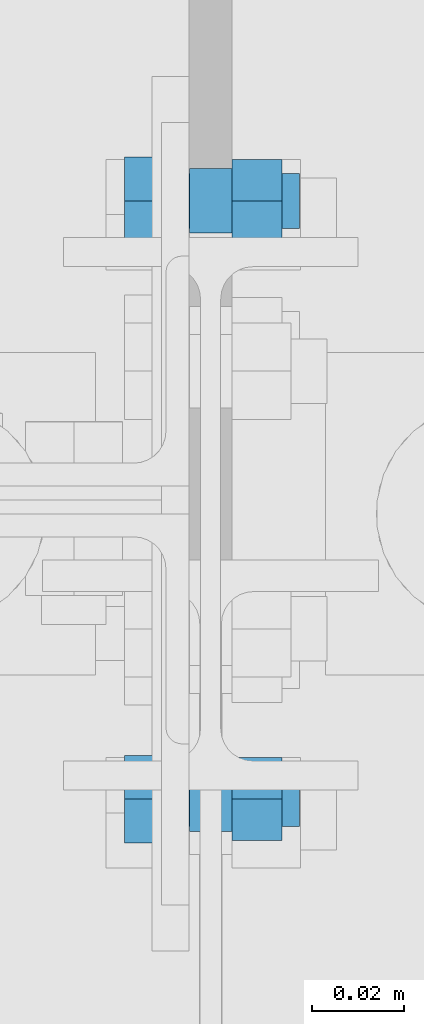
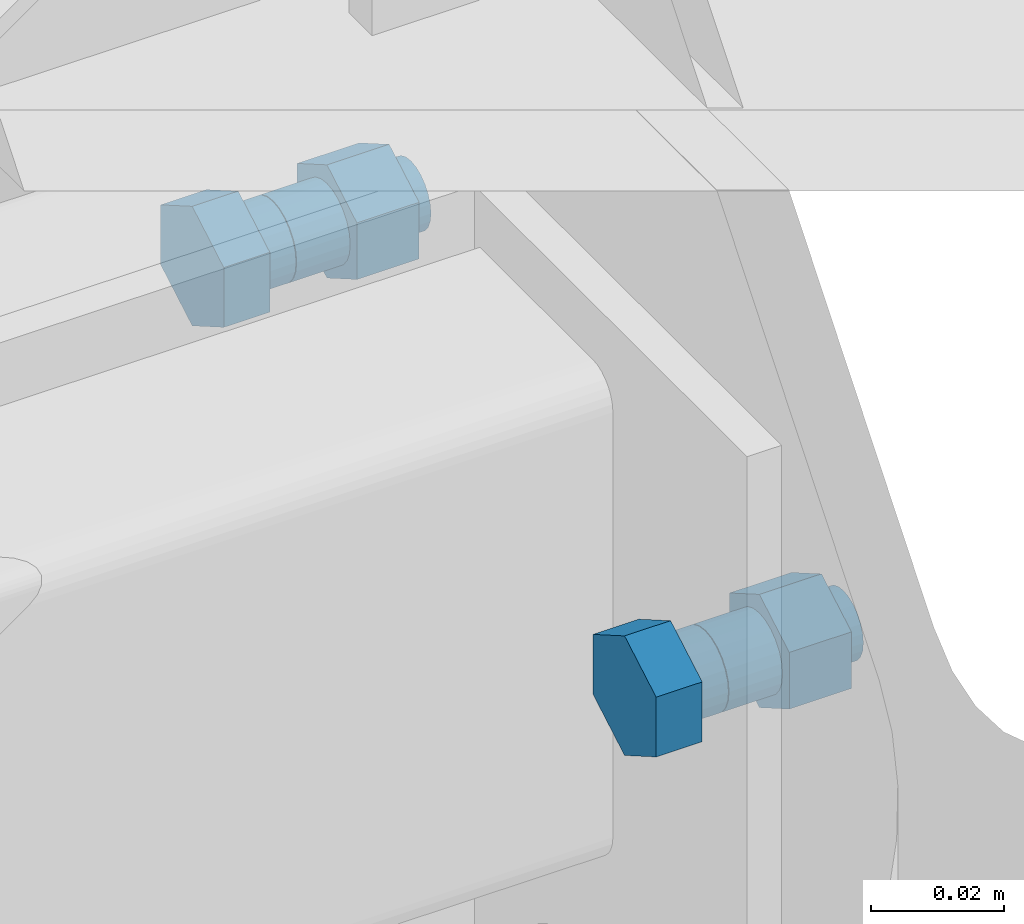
# One storey, part 11 of 21: 1 mechanical fastener.
"""IFC2X3 building model written with IfcOpenShell, lengths in millimetres."""

from ifc_helpers import new_model, si_unit, frame, origin_with_axes, place, context, project, spatial, faceted_brep, element, save


model = new_model("IFC2X3")

# Units and contexts
model_context_1 = context("Model", 3, precision=1e-05, world=origin_with_axes(), identifier="Body")
model_context_2 = context("Model", 3, precision=1e-05, world=origin_with_axes())
ifc_project = project(units=[si_unit("LENGTHUNIT", "METRE", prefix="MILLI"), si_unit("AREAUNIT", "SQUARE_METRE"), si_unit("VOLUMEUNIT", "CUBIC_METRE"), si_unit("MASSUNIT", "GRAM", prefix="KILO"), si_unit("TIMEUNIT", "SECOND"), si_unit("PLANEANGLEUNIT", "RADIAN"), si_unit("SOLIDANGLEUNIT", "STERADIAN"), si_unit("THERMODYNAMICTEMPERATUREUNIT", "DEGREE_CELSIUS"), si_unit("LUMINOUSINTENSITYUNIT", "LUMEN")], contexts=[model_context_1, model_context_2])

# Site, building, storey
site_placement = place(None, origin_with_axes())
site = spatial("IfcSite", under=ifc_project, at=site_placement, Name="Undefined", CompositionType="ELEMENT")
building_placement = place(site_placement, origin_with_axes())
building = spatial("IfcBuilding", under=site, at=building_placement, Name="Undefined", CompositionType="ELEMENT")
storey_placement = place(building_placement, origin_with_axes())
storey = spatial("IfcBuildingStorey", under=building, at=storey_placement, Name="Undefined", CompositionType="ELEMENT")

# Mechanical fastener
mechanical_fastener_placement = place(storey_placement, frame((-9.7281867e-06, -71.999999, 5413.9994), z_axis=(0.0, -1.0, 0.0), x_axis=(1.2908193e-13, -1.8000416e-13, -1.0)))
element("IfcMechanicalFastener", 1, at=mechanical_fastener_placement, inside=storey, Name="Bolt assembly", NominalDiameter=12.0, NominalLength=30.0, context=model_context_1, shape_type="Brep", body=[
    faceted_brep([(10.969655, -18.7, -65.0), (5.4848276, -18.7, -55.5), (-5.4848276, -18.7, -55.5), (-10.969655, -18.7, -65.0), (-5.4848276, -18.7, -74.5), (5.4848276, -18.7, -74.5), (5.4848276, -10.7, -74.5), (-5.4848276, -10.7, -74.5), (-10.969655, -10.7, -65.0), (-5.4848276, -10.7, -55.5), (5.4848276, -10.7, -55.5), (10.969655, -10.7, -65.0), (6.0, -10.7, -65.0), (5.795555, -10.7, -63.447086), (5.1961524, -10.7, -62.0), (4.2426407, -10.7, -60.757359), (3.0, -10.7, -59.803848), (1.5529143, -10.7, -59.204445), (-6.2180159e-13, -10.7, -59.0), (-1.5529143, -10.7, -59.204445), (-3.0, -10.7, -59.803848), (-4.2426407, -10.7, -60.757359), (-5.1961524, -10.7, -62.0), (-5.795555, -10.7, -63.447086), (-6.0, -10.7, -65.0), (-5.795555, -10.7, -66.552914), (-5.1961524, -10.7, -68.0), (-4.2426407, -10.7, -69.242641), (-3.0, -10.7, -70.196152), (-1.5529143, -10.7, -70.795555), (1.8587434e-12, -10.7, -71.0), (1.5529143, -10.7, -70.795555), (3.0, -10.7, -70.196152), (4.2426407, -10.7, -69.242641), (5.1961524, -10.7, -68.0), (5.795555, -10.7, -66.552914), (5.795555, 19.3, -66.552914), (5.1961524, 19.3, -68.0), (4.2426407, 19.3, -69.242641), (3.0, 19.3, -70.196152), (1.5529143, 19.3, -70.795555), (1.8587434e-12, 19.3, -71.0), (-1.5529143, 19.3, -70.795555), (-3.0, 19.3, -70.196152), (-4.2426407, 19.3, -69.242641), (-5.1961524, 19.3, -68.0), (-5.795555, 19.3, -66.552914), (-6.0, 19.3, -65.0), (-5.795555, 19.3, -63.447086), (-5.1961524, 19.3, -62.0), (-4.2426407, 19.3, -60.757359), (-3.0, 19.3, -59.803848), (-1.5529143, 19.3, -59.204445), (-6.2180159e-13, 19.3, -59.0), (1.5529143, 19.3, -59.204445), (3.0, 19.3, -59.803848), (4.2426407, 19.3, -60.757359), (5.1961524, 19.3, -62.0), (5.795555, 19.3, -63.447086), (6.0, 19.3, -65.0), (10.392305, 4.7000095, -65.0), (5.1961524, 4.7000095, -56.0), (-5.1961524, 4.7000095, -56.0), (-10.392305, 4.7000095, -65.0), (-5.1961524, 4.7000095, -74.0), (5.1961524, 4.7000095, -74.0), (5.1961524, 15.50001, -74.0), (-5.1961524, 15.50001, -74.0), (-10.392305, 15.50001, -65.0), (-5.1961524, 15.50001, -56.0), (5.1961524, 15.50001, -56.0), (10.392305, 15.50001, -65.0), (10.969655, -18.7, 65.0), (5.4848276, -18.7, 74.5), (-5.4848276, -18.7, 74.5), (-10.969655, -18.7, 65.0), (-5.4848276, -18.7, 55.5), (5.4848276, -18.7, 55.5), (5.4848276, -10.7, 55.5), (-5.4848276, -10.7, 55.5), (-10.969655, -10.7, 65.0), (-5.4848276, -10.7, 74.5), (5.4848276, -10.7, 74.5), (10.969655, -10.7, 65.0), (6.0, -10.7, 65.0), (5.795555, -10.7, 66.552914), (5.1961524, -10.7, 68.0), (4.2426407, -10.7, 69.242641), (3.0, -10.7, 70.196152), (1.5529143, -10.7, 70.795555), (-6.2180159e-13, -10.7, 71.0), (-1.5529143, -10.7, 70.795555), (-3.0, -10.7, 70.196152), (-4.2426407, -10.7, 69.242641), (-5.1961524, -10.7, 68.0), (-5.795555, -10.7, 66.552914), (-6.0, -10.7, 65.0), (-5.795555, -10.7, 63.447086), (-5.1961524, -10.7, 62.0), (-4.2426407, -10.7, 60.757359), (-3.0, -10.7, 59.803848), (-1.5529143, -10.7, 59.204445), (1.8587434e-12, -10.7, 59.0), (1.5529143, -10.7, 59.204445), (3.0, -10.7, 59.803848), (4.2426407, -10.7, 60.757359), (5.1961524, -10.7, 62.0), (5.795555, -10.7, 63.447086), (5.795555, 19.3, 63.447086), (5.1961524, 19.3, 62.0), (4.2426407, 19.3, 60.757359), (3.0, 19.3, 59.803848), (1.5529143, 19.3, 59.204445), (1.8587434e-12, 19.3, 59.0), (-1.5529143, 19.3, 59.204445), (-3.0, 19.3, 59.803848), (-4.2426407, 19.3, 60.757359), (-5.1961524, 19.3, 62.0), (-5.795555, 19.3, 63.447086), (-6.0, 19.3, 65.0), (-5.795555, 19.3, 66.552914), (-5.1961524, 19.3, 68.0), (-4.2426407, 19.3, 69.242641), (-3.0, 19.3, 70.196152), (-1.5529143, 19.3, 70.795555), (-6.2180159e-13, 19.3, 71.0), (1.5529143, 19.3, 70.795555), (3.0, 19.3, 70.196152), (4.2426407, 19.3, 69.242641), (5.1961524, 19.3, 68.0), (5.795555, 19.3, 66.552914), (6.0, 19.3, 65.0), (10.392305, 4.7000095, 65.0), (5.1961524, 4.7000095, 74.0), (-5.1961524, 4.7000095, 74.0), (-10.392305, 4.7000095, 65.0), (-5.1961524, 4.7000095, 56.0), (5.1961524, 4.7000095, 56.0), (5.1961524, 15.50001, 56.0), (-5.1961524, 15.50001, 56.0), (-10.392305, 15.50001, 65.0), (-5.1961524, 15.50001, 74.0), (5.1961524, 15.50001, 74.0), (10.392305, 15.50001, 65.0)], [[[0, 1, 2, 3, 4, 5]], [[6, 7, 8, 9, 10, 11]], [[0, 11, 10, 1]], [[1, 10, 9, 2]], [[2, 9, 8, 3]], [[3, 8, 7, 4]], [[4, 7, 6, 5]], [[5, 6, 11, 0]], [[12, 13, 14, 15, 16, 17, 18, 19, 20, 21, 22, 23, 24, 25, 26, 27, 28, 29, 30, 31, 32, 33, 34, 35]], [[36, 37, 38, 39, 40, 41, 42, 43, 44, 45, 46, 47, 48, 49, 50, 51, 52, 53, 54, 55, 56, 57, 58, 59]], [[12, 59, 58, 13]], [[13, 58, 57, 14]], [[14, 57, 56, 15]], [[15, 56, 55, 16]], [[16, 55, 54, 17]], [[17, 54, 53, 18]], [[18, 53, 52, 19]], [[19, 52, 51, 20]], [[20, 51, 50, 21]], [[21, 50, 49, 22]], [[22, 49, 48, 23]], [[23, 48, 47, 24]], [[24, 47, 46, 25]], [[25, 46, 45, 26]], [[26, 45, 44, 27]], [[27, 44, 43, 28]], [[28, 43, 42, 29]], [[29, 42, 41, 30]], [[30, 41, 40, 31]], [[31, 40, 39, 32]], [[32, 39, 38, 33]], [[33, 38, 37, 34]], [[34, 37, 36, 35]], [[35, 36, 59, 12]], [[60, 61, 62, 63, 64, 65]], [[66, 67, 68, 69, 70, 71]], [[60, 71, 70, 61]], [[61, 70, 69, 62]], [[62, 69, 68, 63]], [[63, 68, 67, 64]], [[64, 67, 66, 65]], [[65, 66, 71, 60]], [[72, 73, 74, 75, 76, 77]], [[78, 79, 80, 81, 82, 83]], [[72, 83, 82, 73]], [[73, 82, 81, 74]], [[74, 81, 80, 75]], [[75, 80, 79, 76]], [[76, 79, 78, 77]], [[77, 78, 83, 72]], [[84, 85, 86, 87, 88, 89, 90, 91, 92, 93, 94, 95, 96, 97, 98, 99, 100, 101, 102, 103, 104, 105, 106, 107]], [[108, 109, 110, 111, 112, 113, 114, 115, 116, 117, 118, 119, 120, 121, 122, 123, 124, 125, 126, 127, 128, 129, 130, 131]], [[84, 131, 130, 85]], [[85, 130, 129, 86]], [[86, 129, 128, 87]], [[87, 128, 127, 88]], [[88, 127, 126, 89]], [[89, 126, 125, 90]], [[90, 125, 124, 91]], [[91, 124, 123, 92]], [[92, 123, 122, 93]], [[93, 122, 121, 94]], [[94, 121, 120, 95]], [[95, 120, 119, 96]], [[96, 119, 118, 97]], [[97, 118, 117, 98]], [[98, 117, 116, 99]], [[99, 116, 115, 100]], [[100, 115, 114, 101]], [[101, 114, 113, 102]], [[102, 113, 112, 103]], [[103, 112, 111, 104]], [[104, 111, 110, 105]], [[105, 110, 109, 106]], [[106, 109, 108, 107]], [[107, 108, 131, 84]], [[132, 133, 134, 135, 136, 137]], [[138, 139, 140, 141, 142, 143]], [[132, 143, 142, 133]], [[133, 142, 141, 134]], [[134, 141, 140, 135]], [[135, 140, 139, 136]], [[136, 139, 138, 137]], [[137, 138, 143, 132]]]),
    faceted_brep([(7.0, -4.5999901, -65.0), (6.7614808, -4.5999901, -63.188267), (6.0621778, -4.5999901, -61.5), (4.9497475, -4.5999901, -60.050253), (3.5, -4.5999901, -58.937822), (1.8117333, -4.5999901, -58.238519), (-7.2543519e-13, -4.5999901, -58.0), (-1.8117333, -4.5999901, -58.238519), (-3.5, -4.5999901, -58.937822), (-4.9497475, -4.5999901, -60.050253), (-6.0621778, -4.5999901, -61.5), (-6.7614808, -4.5999901, -63.188267), (-7.0, -4.5999901, -65.0), (-6.7614808, -4.5999901, -66.811733), (-6.0621778, -4.5999901, -68.5), (-4.9497475, -4.5999901, -69.949747), (-3.5, -4.5999901, -71.062178), (-1.8117333, -4.5999901, -71.761481), (2.168534e-12, -4.5999901, -72.0), (1.8117333, -4.5999901, -71.761481), (3.5, -4.5999901, -71.062178), (4.9497475, -4.5999901, -69.949747), (6.0621778, -4.5999901, -68.5), (6.7614808, -4.5999901, -66.811733), (6.7614808, 4.8000095, -66.811733), (6.0621778, 4.8000095, -68.5), (4.9497475, 4.8000095, -69.949747), (3.5, 4.8000095, -71.062178), (1.8117333, 4.8000095, -71.761481), (2.168534e-12, 4.8000095, -72.0), (-1.8117333, 4.8000095, -71.761481), (-3.5, 4.8000095, -71.062178), (-4.9497475, 4.8000095, -69.949747), (-6.0621778, 4.8000095, -68.5), (-6.7614808, 4.8000095, -66.811733), (-7.0, 4.8000095, -65.0), (-6.7614808, 4.8000095, -63.188267), (-6.0621778, 4.8000095, -61.5), (-4.9497475, 4.8000095, -60.050253), (-3.5, 4.8000095, -58.937822), (-1.8117333, 4.8000095, -58.238519), (-7.2543519e-13, 4.8000095, -58.0), (1.8117333, 4.8000095, -58.238519), (3.5, 4.8000095, -58.937822), (4.9497475, 4.8000095, -60.050253), (6.0621778, 4.8000095, -61.5), (6.7614808, 4.8000095, -63.188267), (7.0, 4.8000095, -65.0), (7.0, -10.8, -65.0), (6.7614808, -10.8, -63.188267), (6.0621778, -10.8, -61.5), (4.9497475, -10.8, -60.050253), (3.5, -10.8, -58.937822), (1.8117333, -10.8, -58.238519), (-7.2543519e-13, -10.8, -58.0), (-1.8117333, -10.8, -58.238519), (-3.5, -10.8, -58.937822), (-4.9497475, -10.8, -60.050253), (-6.0621778, -10.8, -61.5), (-6.7614808, -10.8, -63.188267), (-7.0, -10.8, -65.0), (-6.7614808, -10.8, -66.811733), (-6.0621778, -10.8, -68.5), (-4.9497475, -10.8, -69.949747), (-3.5, -10.8, -71.062178), (-1.8117333, -10.8, -71.761481), (2.168534e-12, -10.8, -72.0), (1.8117333, -10.8, -71.761481), (3.5, -10.8, -71.062178), (4.9497475, -10.8, -69.949747), (6.0621778, -10.8, -68.5), (6.7614808, -10.8, -66.811733), (6.7614808, -4.7, -66.811733), (6.0621778, -4.7, -68.5), (4.9497475, -4.7, -69.949747), (3.5, -4.7, -71.062178), (1.8117333, -4.7, -71.761481), (2.168534e-12, -4.7, -72.0), (-1.8117333, -4.7, -71.761481), (-3.5, -4.7, -71.062178), (-4.9497475, -4.7, -69.949747), (-6.0621778, -4.7, -68.5), (-6.7614808, -4.7, -66.811733), (-7.0, -4.7, -65.0), (-6.7614808, -4.7, -63.188267), (-6.0621778, -4.7, -61.5), (-4.9497475, -4.7, -60.050253), (-3.5, -4.7, -58.937822), (-1.8117333, -4.7, -58.238519), (-7.2543519e-13, -4.7, -58.0), (1.8117333, -4.7, -58.238519), (3.5, -4.7, -58.937822), (4.9497475, -4.7, -60.050253), (6.0621778, -4.7, -61.5), (6.7614808, -4.7, -63.188267), (7.0, -4.7, -65.0), (7.0, -4.5999901, 65.0), (6.7614808, -4.5999901, 66.811733), (6.0621778, -4.5999901, 68.5), (4.9497475, -4.5999901, 69.949747), (3.5, -4.5999901, 71.062178), (1.8117333, -4.5999901, 71.761481), (-7.2543519e-13, -4.5999901, 72.0), (-1.8117333, -4.5999901, 71.761481), (-3.5, -4.5999901, 71.062178), (-4.9497475, -4.5999901, 69.949747), (-6.0621778, -4.5999901, 68.5), (-6.7614808, -4.5999901, 66.811733), (-7.0, -4.5999901, 65.0), (-6.7614808, -4.5999901, 63.188267), (-6.0621778, -4.5999901, 61.5), (-4.9497475, -4.5999901, 60.050253), (-3.5, -4.5999901, 58.937822), (-1.8117333, -4.5999901, 58.238519), (2.168534e-12, -4.5999901, 58.0), (1.8117333, -4.5999901, 58.238519), (3.5, -4.5999901, 58.937822), (4.9497475, -4.5999901, 60.050253), (6.0621778, -4.5999901, 61.5), (6.7614808, -4.5999901, 63.188267), (6.7614808, 4.8000095, 63.188267), (6.0621778, 4.8000095, 61.5), (4.9497475, 4.8000095, 60.050253), (3.5, 4.8000095, 58.937822), (1.8117333, 4.8000095, 58.238519), (2.168534e-12, 4.8000095, 58.0), (-1.8117333, 4.8000095, 58.238519), (-3.5, 4.8000095, 58.937822), (-4.9497475, 4.8000095, 60.050253), (-6.0621778, 4.8000095, 61.5), (-6.7614808, 4.8000095, 63.188267), (-7.0, 4.8000095, 65.0), (-6.7614808, 4.8000095, 66.811733), (-6.0621778, 4.8000095, 68.5), (-4.9497475, 4.8000095, 69.949747), (-3.5, 4.8000095, 71.062178), (-1.8117333, 4.8000095, 71.761481), (-7.2543519e-13, 4.8000095, 72.0), (1.8117333, 4.8000095, 71.761481), (3.5, 4.8000095, 71.062178), (4.9497475, 4.8000095, 69.949747), (6.0621778, 4.8000095, 68.5), (6.7614808, 4.8000095, 66.811733), (7.0, 4.8000095, 65.0), (7.0, -10.8, 65.0), (6.7614808, -10.8, 66.811733), (6.0621778, -10.8, 68.5), (4.9497475, -10.8, 69.949747), (3.5, -10.8, 71.062178), (1.8117333, -10.8, 71.761481), (-7.2543519e-13, -10.8, 72.0), (-1.8117333, -10.8, 71.761481), (-3.5, -10.8, 71.062178), (-4.9497475, -10.8, 69.949747), (-6.0621778, -10.8, 68.5), (-6.7614808, -10.8, 66.811733), (-7.0, -10.8, 65.0), (-6.7614808, -10.8, 63.188267), (-6.0621778, -10.8, 61.5), (-4.9497475, -10.8, 60.050253), (-3.5, -10.8, 58.937822), (-1.8117333, -10.8, 58.238519), (2.168534e-12, -10.8, 58.0), (1.8117333, -10.8, 58.238519), (3.5, -10.8, 58.937822), (4.9497475, -10.8, 60.050253), (6.0621778, -10.8, 61.5), (6.7614808, -10.8, 63.188267), (6.7614808, -4.7, 63.188267), (6.0621778, -4.7, 61.5), (4.9497475, -4.7, 60.050253), (3.5, -4.7, 58.937822), (1.8117333, -4.7, 58.238519), (2.168534e-12, -4.7, 58.0), (-1.8117333, -4.7, 58.238519), (-3.5, -4.7, 58.937822), (-4.9497475, -4.7, 60.050253), (-6.0621778, -4.7, 61.5), (-6.7614808, -4.7, 63.188267), (-7.0, -4.7, 65.0), (-6.7614808, -4.7, 66.811733), (-6.0621778, -4.7, 68.5), (-4.9497475, -4.7, 69.949747), (-3.5, -4.7, 71.062178), (-1.8117333, -4.7, 71.761481), (-7.2543519e-13, -4.7, 72.0), (1.8117333, -4.7, 71.761481), (3.5, -4.7, 71.062178), (4.9497475, -4.7, 69.949747), (6.0621778, -4.7, 68.5), (6.7614808, -4.7, 66.811733), (7.0, -4.7, 65.0)], [[[0, 1, 2, 3, 4, 5, 6, 7, 8, 9, 10, 11, 12, 13, 14, 15, 16, 17, 18, 19, 20, 21, 22, 23]], [[24, 25, 26, 27, 28, 29, 30, 31, 32, 33, 34, 35, 36, 37, 38, 39, 40, 41, 42, 43, 44, 45, 46, 47]], [[0, 47, 46, 1]], [[1, 46, 45, 2]], [[2, 45, 44, 3]], [[3, 44, 43, 4]], [[4, 43, 42, 5]], [[5, 42, 41, 6]], [[6, 41, 40, 7]], [[7, 40, 39, 8]], [[8, 39, 38, 9]], [[9, 38, 37, 10]], [[10, 37, 36, 11]], [[11, 36, 35, 12]], [[12, 35, 34, 13]], [[13, 34, 33, 14]], [[14, 33, 32, 15]], [[15, 32, 31, 16]], [[16, 31, 30, 17]], [[17, 30, 29, 18]], [[18, 29, 28, 19]], [[19, 28, 27, 20]], [[20, 27, 26, 21]], [[21, 26, 25, 22]], [[22, 25, 24, 23]], [[23, 24, 47, 0]], [[48, 49, 50, 51, 52, 53, 54, 55, 56, 57, 58, 59, 60, 61, 62, 63, 64, 65, 66, 67, 68, 69, 70, 71]], [[72, 73, 74, 75, 76, 77, 78, 79, 80, 81, 82, 83, 84, 85, 86, 87, 88, 89, 90, 91, 92, 93, 94, 95]], [[48, 95, 94, 49]], [[49, 94, 93, 50]], [[50, 93, 92, 51]], [[51, 92, 91, 52]], [[52, 91, 90, 53]], [[53, 90, 89, 54]], [[54, 89, 88, 55]], [[55, 88, 87, 56]], [[56, 87, 86, 57]], [[57, 86, 85, 58]], [[58, 85, 84, 59]], [[59, 84, 83, 60]], [[60, 83, 82, 61]], [[61, 82, 81, 62]], [[62, 81, 80, 63]], [[63, 80, 79, 64]], [[64, 79, 78, 65]], [[65, 78, 77, 66]], [[66, 77, 76, 67]], [[67, 76, 75, 68]], [[68, 75, 74, 69]], [[69, 74, 73, 70]], [[70, 73, 72, 71]], [[71, 72, 95, 48]], [[96, 97, 98, 99, 100, 101, 102, 103, 104, 105, 106, 107, 108, 109, 110, 111, 112, 113, 114, 115, 116, 117, 118, 119]], [[120, 121, 122, 123, 124, 125, 126, 127, 128, 129, 130, 131, 132, 133, 134, 135, 136, 137, 138, 139, 140, 141, 142, 143]], [[96, 143, 142, 97]], [[97, 142, 141, 98]], [[98, 141, 140, 99]], [[99, 140, 139, 100]], [[100, 139, 138, 101]], [[101, 138, 137, 102]], [[102, 137, 136, 103]], [[103, 136, 135, 104]], [[104, 135, 134, 105]], [[105, 134, 133, 106]], [[106, 133, 132, 107]], [[107, 132, 131, 108]], [[108, 131, 130, 109]], [[109, 130, 129, 110]], [[110, 129, 128, 111]], [[111, 128, 127, 112]], [[112, 127, 126, 113]], [[113, 126, 125, 114]], [[114, 125, 124, 115]], [[115, 124, 123, 116]], [[116, 123, 122, 117]], [[117, 122, 121, 118]], [[118, 121, 120, 119]], [[119, 120, 143, 96]], [[144, 145, 146, 147, 148, 149, 150, 151, 152, 153, 154, 155, 156, 157, 158, 159, 160, 161, 162, 163, 164, 165, 166, 167]], [[168, 169, 170, 171, 172, 173, 174, 175, 176, 177, 178, 179, 180, 181, 182, 183, 184, 185, 186, 187, 188, 189, 190, 191]], [[144, 191, 190, 145]], [[145, 190, 189, 146]], [[146, 189, 188, 147]], [[147, 188, 187, 148]], [[148, 187, 186, 149]], [[149, 186, 185, 150]], [[150, 185, 184, 151]], [[151, 184, 183, 152]], [[152, 183, 182, 153]], [[153, 182, 181, 154]], [[154, 181, 180, 155]], [[155, 180, 179, 156]], [[156, 179, 178, 157]], [[157, 178, 177, 158]], [[158, 177, 176, 159]], [[159, 176, 175, 160]], [[160, 175, 174, 161]], [[161, 174, 173, 162]], [[162, 173, 172, 163]], [[163, 172, 171, 164]], [[164, 171, 170, 165]], [[165, 170, 169, 166]], [[166, 169, 168, 167]], [[167, 168, 191, 144]]]),
])

save(model, "model.ifc")
